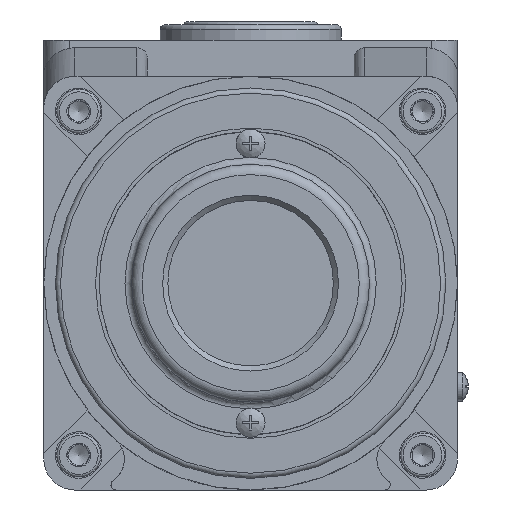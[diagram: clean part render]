
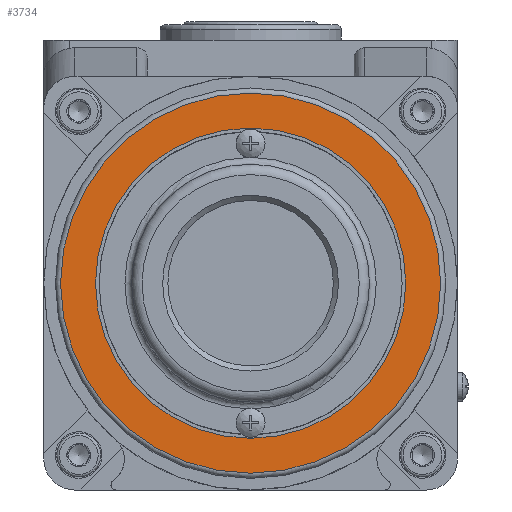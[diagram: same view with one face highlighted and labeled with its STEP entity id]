
A CAD part, front view. The second image highlights one B-rep face of the part: STEP entity #3734.
In plain terms, the highlighted planar face has unit normal (0, -1, 0).
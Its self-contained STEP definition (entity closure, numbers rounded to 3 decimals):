
#3734=ADVANCED_FACE('',(#4750,#4751),#4398,.T.);
#4398=PLANE('',#12345);
#4750=FACE_BOUND('',#5213,.T.);
#4751=FACE_BOUND('',#5214,.T.);
#5213=EDGE_LOOP('',(#6432));
#5214=EDGE_LOOP('',(#6433));
#6432=ORIENTED_EDGE('',*,*,#10107,.T.);
#6433=ORIENTED_EDGE('',*,*,#10093,.T.);
#9061=VERTEX_POINT('',#17522);
#9072=VERTEX_POINT('',#17552);
#10093=EDGE_CURVE('',#9061,#9061,#11395,.T.);
#10107=EDGE_CURVE('',#9072,#9072,#11401,.T.);
#11395=CIRCLE('',#12324,36.75);
#11401=CIRCLE('',#12335,30.);
#12324=AXIS2_PLACEMENT_3D('',#17521,#13995,#13996);
#12335=AXIS2_PLACEMENT_3D('',#17551,#14025,#14026);
#12345=AXIS2_PLACEMENT_3D('',#17566,#14045,#14046);
#13995=DIRECTION('',(0.,-1.,0.));
#13996=DIRECTION('',(1.,0.,0.));
#14025=DIRECTION('',(0.,1.,0.));
#14026=DIRECTION('',(1.,0.,0.));
#14045=DIRECTION('',(0.,-1.,0.));
#14046=DIRECTION('',(1.,0.,0.));
#17521=CARTESIAN_POINT('',(0.,-166.,-47.));
#17522=CARTESIAN_POINT('',(36.75,-166.,-47.));
#17551=CARTESIAN_POINT('',(0.,-166.,-47.));
#17552=CARTESIAN_POINT('',(30.,-166.,-47.));
#17566=CARTESIAN_POINT('',(0.,-166.,-47.));
